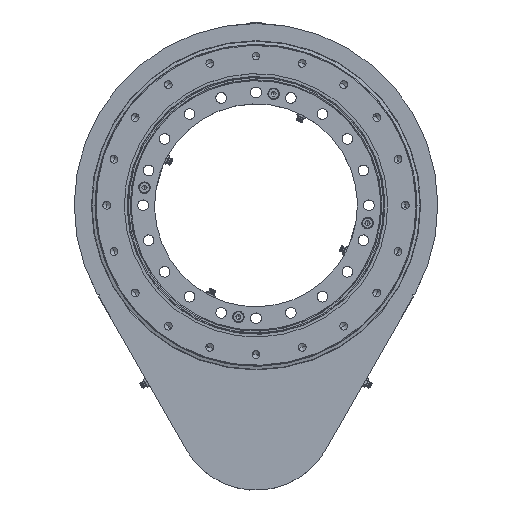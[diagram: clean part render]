
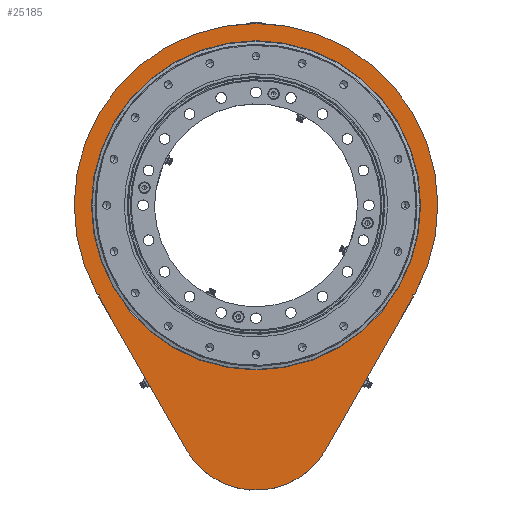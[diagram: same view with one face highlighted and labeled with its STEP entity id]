
A CAD part, top view. The second image highlights one B-rep face of the part: STEP entity #25185.
In plain terms, the highlighted planar face has unit normal (0, 0, 1).
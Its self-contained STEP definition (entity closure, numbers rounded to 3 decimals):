
#1858=DIRECTION('',(0.964,0.267,0.));
#1859=VECTOR('',#1858,2.834);
#1860=CARTESIAN_POINT('',(204.454,-116.862,82.));
#1861=LINE('',#1860,#1859);
#1865=DIRECTION('',(-0.263,0.965,0.));
#1866=VECTOR('',#1865,2.835);
#1867=CARTESIAN_POINT('',(205.2,-119.597,82.));
#1868=LINE('',#1867,#1866);
#1872=DIRECTION('',(0.496,0.868,0.));
#1873=VECTOR('',#1872,229.803);
#1874=CARTESIAN_POINT('',(91.159,-319.107,82.));
#1875=LINE('',#1874,#1873);
#1879=CARTESIAN_POINT('',(0.,-267.,82.));
#1880=DIRECTION('',(0.,0.,1.));
#1881=DIRECTION('',(-0.868,-0.496,0.));
#1882=AXIS2_PLACEMENT_3D('',#1879,#1880,#1881);
#1887=DIRECTION('',(0.496,-0.868,0.));
#1888=VECTOR('',#1887,229.803);
#1889=CARTESIAN_POINT('',(-205.2,-119.597,82.));
#1890=LINE('',#1889,#1888);
#1894=DIRECTION('',(-0.263,-0.965,0.));
#1895=VECTOR('',#1894,2.835);
#1896=CARTESIAN_POINT('',(-204.454,-116.862,82.));
#1897=LINE('',#1896,#1895);
#1901=DIRECTION('',(0.964,-0.267,0.));
#1902=VECTOR('',#1901,2.834);
#1903=CARTESIAN_POINT('',(-207.186,-116.105,82.));
#1904=LINE('',#1903,#1902);
#1908=CARTESIAN_POINT('',(0.,0.,82.));
#1909=DIRECTION('',(0.,0.,1.));
#1910=DIRECTION('',(0.872,-0.489,0.));
#1911=AXIS2_PLACEMENT_3D('',#1908,#1909,#1910);
#3193=CARTESIAN_POINT('',(0.,0.,82.));
#3194=DIRECTION('',(0.,0.,-1.));
#3195=DIRECTION('',(-1.,0.,0.));
#3196=AXIS2_PLACEMENT_3D('',#3193,#3194,#3195);
#3215=CARTESIAN_POINT('',(0.,0.,82.));
#3216=DIRECTION('',(0.,0.,1.));
#3217=DIRECTION('',(-1.,0.,0.));
#3218=AXIS2_PLACEMENT_3D('',#3215,#3216,#3217);
#21236=CARTESIAN_POINT('',(-207.186,-116.105,82.));
#21238=VERTEX_POINT('',#21236);
#21240=CARTESIAN_POINT('',(207.186,-116.105,82.));
#21242=VERTEX_POINT('',#21240);
#21254=CARTESIAN_POINT('',(-91.159,-319.107,82.));
#21255=CARTESIAN_POINT('',(91.159,-319.107,82.));
#21256=VERTEX_POINT('',#21254);
#21257=VERTEX_POINT('',#21255);
#21258=CARTESIAN_POINT('',(-205.2,-119.597,82.));
#21260=VERTEX_POINT('',#21258);
#21262=CARTESIAN_POINT('',(205.2,-119.597,82.));
#21264=VERTEX_POINT('',#21262);
#21267=CARTESIAN_POINT('',(204.454,-116.862,82.));
#21269=VERTEX_POINT('',#21267);
#21271=CARTESIAN_POINT('',(-204.454,-116.862,82.));
#21273=VERTEX_POINT('',#21271);
#21874=CARTESIAN_POINT('',(-215.,0.,82.));
#21876=VERTEX_POINT('',#21874);
#21882=CARTESIAN_POINT('',(215.,0.,82.));
#21884=VERTEX_POINT('',#21882);
#25158=CARTESIAN_POINT('',(0.,0.,82.));
#25159=DIRECTION('',(0.,0.,1.));
#25160=DIRECTION('',(1.,0.,0.));
#25161=AXIS2_PLACEMENT_3D('',#25158,#25159,#25160);
#25162=PLANE('',#25161);
#25164=ORIENTED_EDGE('',*,*,#25163,.F.);
#25166=ORIENTED_EDGE('',*,*,#25165,.F.);
#25168=ORIENTED_EDGE('',*,*,#25167,.F.);
#25170=ORIENTED_EDGE('',*,*,#25169,.F.);
#25172=ORIENTED_EDGE('',*,*,#25171,.F.);
#25173=ORIENTED_EDGE('',*,*,#25143,.F.);
#25174=ORIENTED_EDGE('',*,*,#25125,.F.);
#25176=ORIENTED_EDGE('',*,*,#25175,.F.);
#25177=EDGE_LOOP('',(#25164,#25166,#25168,#25170,#25172,#25173,#25174,#25176));
#25178=FACE_OUTER_BOUND('',#25177,.F.);
#25180=ORIENTED_EDGE('',*,*,#25179,.F.);
#25182=ORIENTED_EDGE('',*,*,#25181,.T.);
#25183=EDGE_LOOP('',(#25180,#25182));
#25184=FACE_BOUND('',#25183,.F.);
#1883=CIRCLE('',#1882,105.);
#1912=CIRCLE('',#1911,237.5);
#3197=CIRCLE('',#3196,215.);
#3219=CIRCLE('',#3218,215.);
#25125=EDGE_CURVE('',#21238,#21273,#1904,.T.);
#25143=EDGE_CURVE('',#21273,#21260,#1897,.T.);
#25163=EDGE_CURVE('',#21269,#21242,#1861,.T.);
#25165=EDGE_CURVE('',#21264,#21269,#1868,.T.);
#25167=EDGE_CURVE('',#21257,#21264,#1875,.T.);
#25169=EDGE_CURVE('',#21256,#21257,#1883,.T.);
#25171=EDGE_CURVE('',#21260,#21256,#1890,.T.);
#25175=EDGE_CURVE('',#21242,#21238,#1912,.T.);
#25179=EDGE_CURVE('',#21876,#21884,#3197,.T.);
#25181=EDGE_CURVE('',#21876,#21884,#3219,.T.);
#25185=ADVANCED_FACE('',(#25178,#25184),#25162,.T.);
